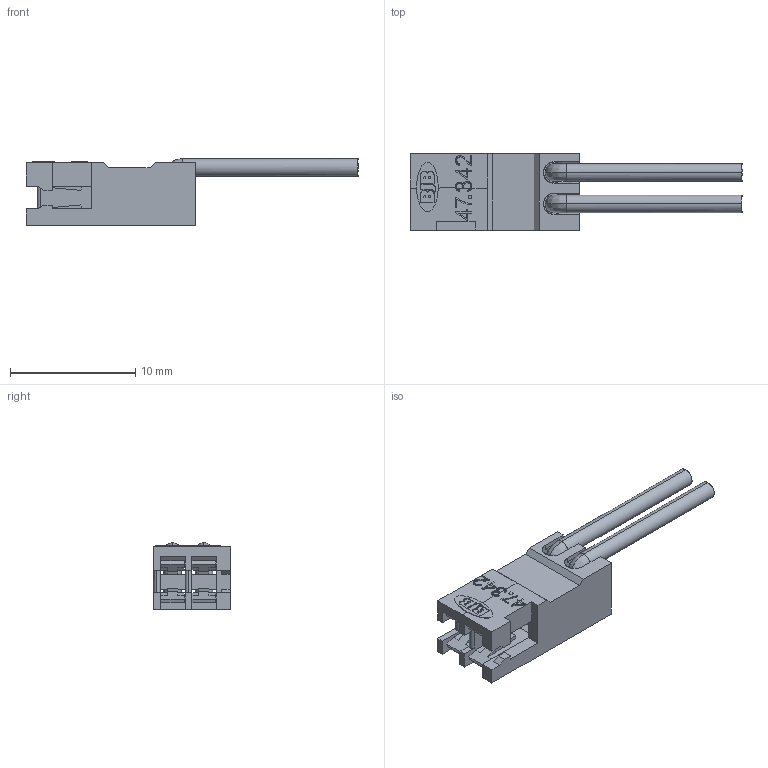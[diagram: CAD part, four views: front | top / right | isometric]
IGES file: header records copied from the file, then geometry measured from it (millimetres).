
Start section: SurfaceModel.B-Splineboundarycurves.
Global section: file name: 013-J05-05.igs; native system: CT CoreTechnologie TRANS-3D; preprocessor: 2.1; date: 030325.092641; units: millimetre
Bounding box: 26.5 x 6.1 x 5.3 mm (x, y, z)
Surface area: 933.8 mm2 (no closed solid volume)
Topology: 0 solids, 0 shells, 337 faces, 1916 edges, 1916 vertices
Faces by surface type: bspline 337
